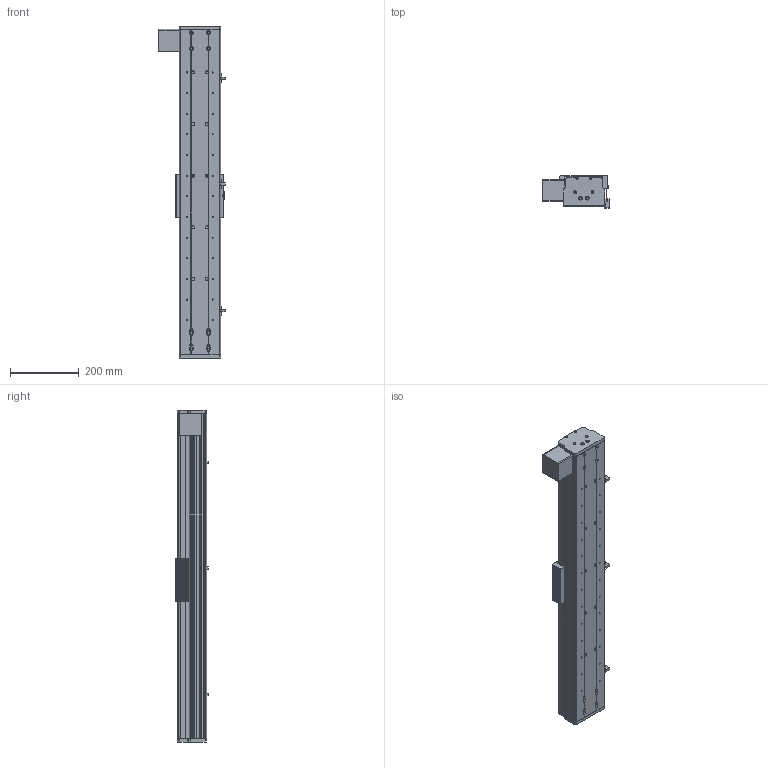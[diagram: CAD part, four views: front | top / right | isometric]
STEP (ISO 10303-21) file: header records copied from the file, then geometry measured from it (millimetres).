
FILE_DESCRIPTION (( 'STEP AP214' ), '1' );
FILE_NAME ('CF120B-D-650-FW.STEP', '2020-01-15T07:27:02', ( '微软用户' ), ( '微软中国' ), 'SwSTEP 2.0', 'SolidWorks 2016', '' );
FILE_SCHEMA (( 'AUTOMOTIVE_DESIGN' ));
Length unit declared in the file: millimetre
Products named in the file (14): 嫖萇羲壽; 75-86-95癹弇羲壽覜茼え; 6060-3232源臏奪-植雄釱; 6060-3232源臏奪-萇儂釱; 6060-3232源臏奪-翋雄釱; CF120B耜啣萇儂傷; CF120B耜啣; CF120B裔啣-650; CF120B賑雄啣; CF120-B賑雄輸; EGR15絳寢-650; EGH-15-CABZnew; CF120B臏倰第-650; CF120B-D-650-FW
Assembly tree (19 placements, depth 2):
  CF120B-D-650-FW
    CF120B臏倰第-650
    EGH-15-CABZnew  x4
    EGR15絳寢-650  x2
    CF120-B賑雄輸
    CF120B賑雄啣
    CF120B裔啣-650
    CF120B耜啣
    CF120B耜啣萇儂傷
    6060-3232源臏奪-翋雄釱
    6060-3232源臏奪-萇儂釱
    6060-3232源臏奪-植雄釱
    75-86-95癹弇羲壽覜茼え
    嫖萇羲壽  x3
Bounding box: 193.1 x 93.85 x 965 mm (x, y, z)
Volume: 4139437.3 mm3; surface area: 1441575.9 mm2
Topology: 15 solids, 67 shells, 7355 faces, 27846 edges, 19164 vertices
Faces by surface type: plane 3616, bspline 2348, cylinder 1039, cone 128, torus 128, sphere 96
Entity records: 133060 total; most frequent: CARTESIAN_POINT 42366, ORIENTED_EDGE 15780, DIRECTION 12573, EDGE_CURVE 9014, VERTEX_POINT 6167, LINE 5293, VECTOR 5293, AXIS2_PLACEMENT_3D 3640
